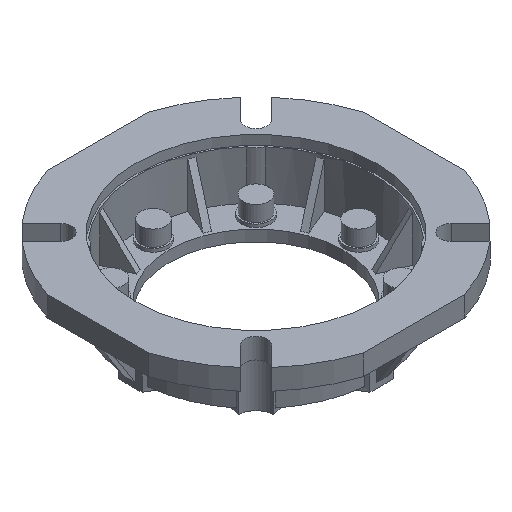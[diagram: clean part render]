
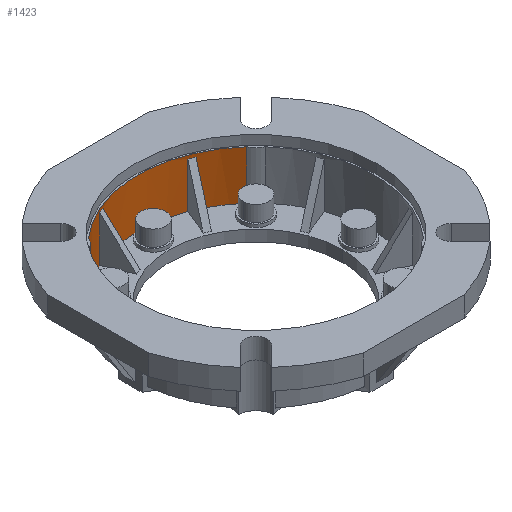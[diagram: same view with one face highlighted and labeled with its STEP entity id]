
A CAD part, isometric view. The second image highlights one B-rep face of the part: STEP entity #1423.
In plain terms, the highlighted cylindrical face has radius 75 mm (diameter 150 mm), a partial arc.
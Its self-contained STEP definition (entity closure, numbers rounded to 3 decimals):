
#1423=ADVANCED_FACE('',(#1580),#4023,.F.);
#1580=FACE_OUTER_BOUND('',#1758,.T.);
#1758=EDGE_LOOP('',(#2452,#2453,#2454,#2455,#2456,#2457,#2458,#2459,#2460,
#2461,#2462,#2463));
#2452=ORIENTED_EDGE('',*,*,#2918,.F.);
#2453=ORIENTED_EDGE('',*,*,#2919,.F.);
#2454=ORIENTED_EDGE('',*,*,#2920,.F.);
#2455=ORIENTED_EDGE('',*,*,#2921,.F.);
#2456=ORIENTED_EDGE('',*,*,#2922,.F.);
#2457=ORIENTED_EDGE('',*,*,#2736,.T.);
#2458=ORIENTED_EDGE('',*,*,#2798,.T.);
#2459=ORIENTED_EDGE('',*,*,#2733,.T.);
#2460=ORIENTED_EDGE('',*,*,#2923,.F.);
#2461=ORIENTED_EDGE('',*,*,#2730,.T.);
#2462=ORIENTED_EDGE('',*,*,#2796,.T.);
#2463=ORIENTED_EDGE('',*,*,#2727,.T.);
#2727=EDGE_CURVE('',#3775,#3726,#3093,.T.);
#2730=EDGE_CURVE('',#3689,#3776,#3096,.T.);
#2733=EDGE_CURVE('',#3777,#3690,#3099,.T.);
#2736=EDGE_CURVE('',#3693,#3778,#3102,.T.);
#2796=EDGE_CURVE('',#3776,#3775,#3282,.T.);
#2798=EDGE_CURVE('',#3778,#3777,#3284,.T.);
#2918=EDGE_CURVE('',#3725,#3726,#3352,.T.);
#2919=EDGE_CURVE('',#3855,#3725,#3190,.T.);
#2920=EDGE_CURVE('',#3854,#3855,#3353,.T.);
#2921=EDGE_CURVE('',#3694,#3854,#3191,.T.);
#2922=EDGE_CURVE('',#3693,#3694,#3354,.T.);
#2923=EDGE_CURVE('',#3689,#3690,#3355,.T.);
#3093=B_SPLINE_CURVE_WITH_KNOTS('',1,(#6029,#6030),.UNSPECIFIED.,.F.,.F.,
(2,2),(-28.81,0.),.UNSPECIFIED.);
#3096=B_SPLINE_CURVE_WITH_KNOTS('',1,(#6039,#6040),.UNSPECIFIED.,.F.,.F.,
(2,2),(-28.81,0.),.UNSPECIFIED.);
#3099=B_SPLINE_CURVE_WITH_KNOTS('',1,(#6045,#6046),.UNSPECIFIED.,.F.,.F.,
(2,2),(-28.81,0.),.UNSPECIFIED.);
#3102=B_SPLINE_CURVE_WITH_KNOTS('',1,(#6055,#6056),.UNSPECIFIED.,.F.,.F.,
(2,2),(-28.81,0.),.UNSPECIFIED.);
#3190=B_SPLINE_CURVE_WITH_KNOTS('',1,(#6528,#6529),.UNSPECIFIED.,.F.,.F.,
(2,2),(-31.,0.),.UNSPECIFIED.);
#3191=B_SPLINE_CURVE_WITH_KNOTS('',1,(#6533,#6534),.UNSPECIFIED.,.F.,.F.,
(2,2),(-31.,0.),.UNSPECIFIED.);
#3282=TRIMMED_CURVE($,#3486,(#6200),(#6201),.T.,.CARTESIAN.);
#3284=TRIMMED_CURVE($,#3488,(#6206),(#6207),.T.,.CARTESIAN.);
#3352=TRIMMED_CURVE($,#3556,(#6526),(#6527),.T.,.CARTESIAN.);
#3353=TRIMMED_CURVE($,#3557,(#6531),(#6532),.T.,.CARTESIAN.);
#3354=TRIMMED_CURVE($,#3558,(#6536),(#6537),.T.,.CARTESIAN.);
#3355=TRIMMED_CURVE($,#3559,(#6539),(#6540),.T.,.CARTESIAN.);
#3486=CIRCLE('',#4445,75.);
#3488=CIRCLE('',#4447,75.);
#3556=CIRCLE('',#4515,75.);
#3557=CIRCLE('',#4516,75.);
#3558=CIRCLE('',#4517,75.);
#3559=CIRCLE('',#4518,75.);
#3689=VERTEX_POINT('',#5510);
#3690=VERTEX_POINT('',#5511);
#3693=VERTEX_POINT('',#5514);
#3694=VERTEX_POINT('',#5515);
#3725=VERTEX_POINT('',#5546);
#3726=VERTEX_POINT('',#5547);
#3775=VERTEX_POINT('',#5596);
#3776=VERTEX_POINT('',#5597);
#3777=VERTEX_POINT('',#5598);
#3778=VERTEX_POINT('',#5599);
#3854=VERTEX_POINT('',#5675);
#3855=VERTEX_POINT('',#5676);
#4023=CYLINDRICAL_SURFACE('',#4349,75.);
#4349=AXIS2_PLACEMENT_3D('',#5415,#4708,$);
#4445=AXIS2_PLACEMENT_3D($,#6199,#4870,#4871);
#4447=AXIS2_PLACEMENT_3D($,#6205,#4874,#4875);
#4515=AXIS2_PLACEMENT_3D($,#6525,#5010,#5011);
#4516=AXIS2_PLACEMENT_3D($,#6530,#5012,#5013);
#4517=AXIS2_PLACEMENT_3D($,#6535,#5014,#5015);
#4518=AXIS2_PLACEMENT_3D($,#6538,#5016,#5017);
#4708=DIRECTION('',(-1.,0.,0.));
#4870=DIRECTION('',(-1.,0.,0.));
#4871=DIRECTION('',(0.,0.934,-0.358));
#4874=DIRECTION('',(-1.,0.,0.));
#4875=DIRECTION('',(0.,0.913,0.407));
#5010=DIRECTION('',(1.,0.,0.));
#5011=DIRECTION('',(0.,0.746,-0.666));
#5012=DIRECTION('',(-1.,0.,0.));
#5013=DIRECTION('',(0.,0.746,0.666));
#5014=DIRECTION('',(1.,0.,0.));
#5015=DIRECTION('',(0.,0.913,0.407));
#5016=DIRECTION('',(1.,0.,0.));
#5017=DIRECTION('',(0.,0.934,-0.358));
#5415=CARTESIAN_POINT('',(22.5,0.,0.));
#5510=CARTESIAN_POINT('',(7.,70.032,-26.843));
#5511=CARTESIAN_POINT('',(7.,70.032,26.843));
#5514=CARTESIAN_POINT('',(7.,68.501,30.539));
#5515=CARTESIAN_POINT('',(7.,55.923,49.977));
#5546=CARTESIAN_POINT('',(7.,55.923,-49.977));
#5547=CARTESIAN_POINT('',(7.,68.501,-30.539));
#5596=CARTESIAN_POINT('',(35.81,68.501,-30.539));
#5597=CARTESIAN_POINT('',(35.81,70.032,-26.843));
#5598=CARTESIAN_POINT('',(35.81,70.032,26.843));
#5599=CARTESIAN_POINT('',(35.81,68.501,30.539));
#5675=CARTESIAN_POINT('',(38.,55.923,49.977));
#5676=CARTESIAN_POINT('',(38.,55.923,-49.977));
#6029=CARTESIAN_POINT('',(35.81,68.501,-30.539));
#6030=CARTESIAN_POINT('',(7.,68.501,-30.539));
#6039=CARTESIAN_POINT('',(7.,70.032,-26.843));
#6040=CARTESIAN_POINT('',(35.81,70.032,-26.843));
#6045=CARTESIAN_POINT('',(35.81,70.032,26.843));
#6046=CARTESIAN_POINT('',(7.,70.032,26.843));
#6055=CARTESIAN_POINT('',(7.,68.501,30.539));
#6056=CARTESIAN_POINT('',(35.81,68.501,30.539));
#6199=CARTESIAN_POINT('',(35.81,0.,0.));
#6200=CARTESIAN_POINT('',(35.81,70.032,-26.843));
#6201=CARTESIAN_POINT('',(35.81,68.501,-30.539));
#6205=CARTESIAN_POINT('',(35.81,0.,0.));
#6206=CARTESIAN_POINT('',(35.81,68.501,30.539));
#6207=CARTESIAN_POINT('',(35.81,70.032,26.843));
#6525=CARTESIAN_POINT('',(7.,0.,0.));
#6526=CARTESIAN_POINT('',(7.,55.923,-49.977));
#6527=CARTESIAN_POINT('',(7.,68.501,-30.539));
#6528=CARTESIAN_POINT('',(38.,55.923,-49.977));
#6529=CARTESIAN_POINT('',(7.,55.923,-49.977));
#6530=CARTESIAN_POINT('',(38.,0.,0.));
#6531=CARTESIAN_POINT('',(38.,55.923,49.977));
#6532=CARTESIAN_POINT('',(38.,55.923,-49.977));
#6533=CARTESIAN_POINT('',(7.,55.923,49.977));
#6534=CARTESIAN_POINT('',(38.,55.923,49.977));
#6535=CARTESIAN_POINT('',(7.,0.,0.));
#6536=CARTESIAN_POINT('',(7.,68.501,30.539));
#6537=CARTESIAN_POINT('',(7.,55.923,49.977));
#6538=CARTESIAN_POINT('',(7.,0.,0.));
#6539=CARTESIAN_POINT('',(7.,70.032,-26.843));
#6540=CARTESIAN_POINT('',(7.,70.032,26.843));
